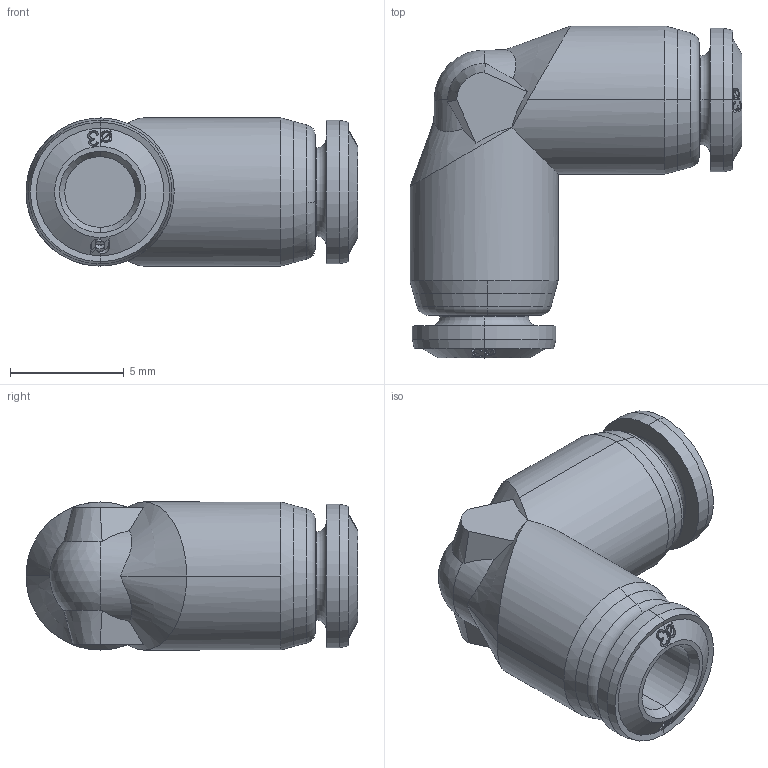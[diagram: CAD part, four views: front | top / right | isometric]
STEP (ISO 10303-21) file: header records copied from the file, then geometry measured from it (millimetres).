
FILE_DESCRIPTION (( 'STEP AP214' ), '1' );
FILE_NAME ('5613000002.step', '2012-10-22T17:00:30', ( '' ), ( '' ), 'SwSTEP 2.0', 'SolidWorks 2012', '' );
FILE_SCHEMA (( 'AUTOMOTIVE_DESIGN' ));
Length unit declared in the file: millimetre
Products named in the file (1): 5613000002
Bounding box: 14.57 x 14.57 x 6.5 mm (x, y, z)
Volume: 590 mm3; surface area: 608.4 mm2
Topology: 1 solids, 1 shells, 209 faces, 558 edges, 365 vertices
Faces by surface type: bspline 114, cone 50, cylinder 18, plane 14, torus 12, sphere 1
Entity records: 12453 total; most frequent: CARTESIAN_POINT 5971, ORIENTED_EDGE 1116, EDGE_CURVE 558, DIRECTION 440, B_SPLINE_CURVE_WITH_KNOTS 398, VERTEX_POINT 365, EDGE_LOOP 223, UNCERTAINTY_MEASURE_WITH_UNIT 212
